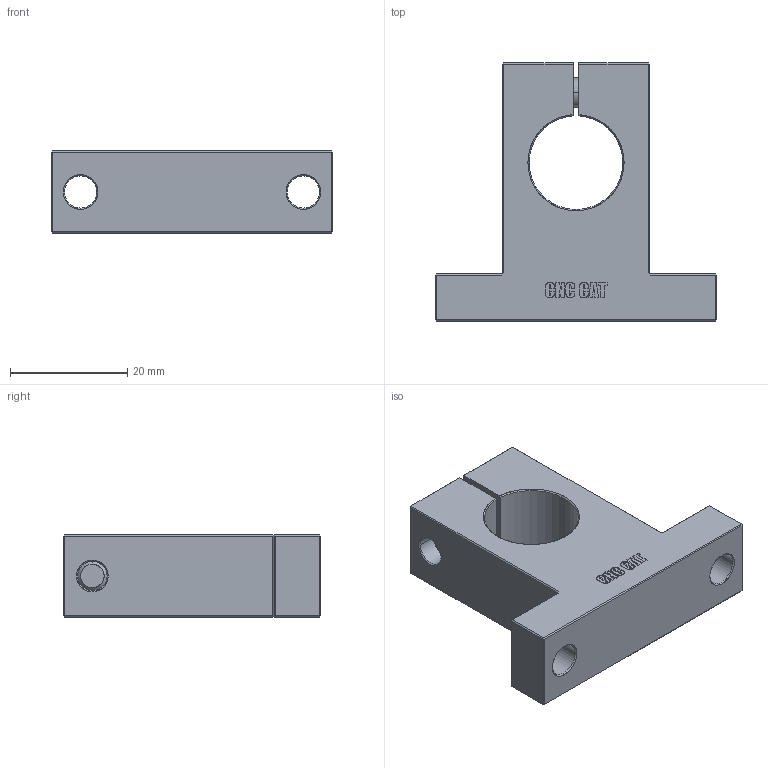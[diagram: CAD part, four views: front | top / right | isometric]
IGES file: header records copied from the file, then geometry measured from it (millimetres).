
Start section: SolidWorks IGES file using analytic representation for surfaces
Global section: file name: D:\SOLIDWORKS PROEKTI\freelance cnc cat\TRETA SERIJA SHF, SK\SK\SK16.IGS; native system: SolidWorks 2016; preprocessor: SolidWorks 2016; author: User; date: 170808.182056; units: millimetre
Bounding box: 48 x 44 x 14 mm (x, y, z)
Surface area: 6012.6 mm2 (no closed solid volume)
Topology: 0 solids, 0 shells, 191 faces, 2387 edges, 2866 vertices
Faces by surface type: bspline 150, revolution 41
